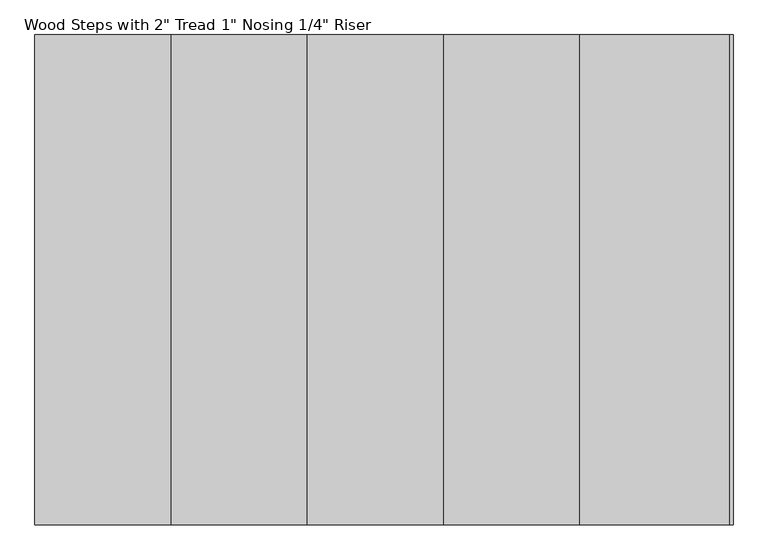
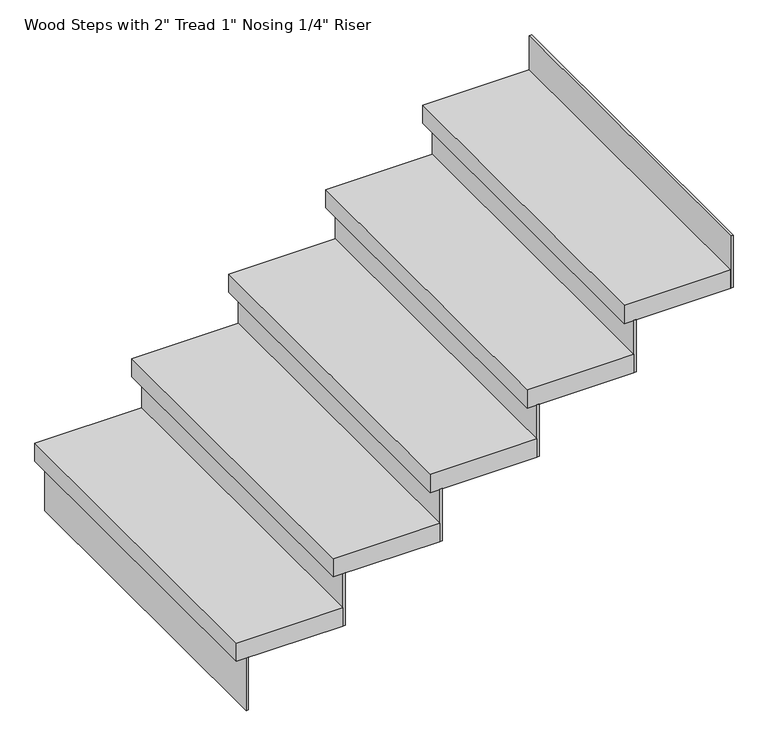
"""IFC4 building model written with IfcOpenShell, lengths in millimetres: stair flight geometry."""

import ifcopenshell
import ifcopenshell.guid

model = None  # the IFC model being written
_history = None  # IfcOwnerHistory: only IFC2X3 demands one
_inside = {}  # id of a spatial element -> (the spatial element, [elements in it])
_under = {}  # id of a project, library or spatial element -> (it, [spatial elements below it])
_declared = {}  # id of a project -> (the project, [libraries it declares])
_typed = {}  # id of a type object -> (the type object, [elements of that type])
_made_of = {}  # id of a material, layer set ... -> (it, [elements and type objects made of it])


def new_model(schema):
    """Start an empty IFC model of exactly this schema.

    Asked for "IFC4X3", IfcOpenShell would pick the latest addendum, in which some entities
    have other attributes; the version numbers below select the first issue.
    IFC2X3 requires an IfcOwnerHistory on every rooted entity: one is made here for all.
    """
    global model, _history
    if schema == "IFC4X3":
        model = ifcopenshell.file(schema_version=(4, 3, 0, 0))
    else:
        model = ifcopenshell.file(schema=schema)
    _inside.clear()
    _under.clear()
    _declared.clear()
    _typed.clear()
    _made_of.clear()
    _history = None
    if model.schema == "IFC2X3":
        org = make("IfcOrganization", Name="unknown")
        user = make(
            "IfcPersonAndOrganization",
            ThePerson=make("IfcPerson", FamilyName="unknown"),
            TheOrganization=org,
        )
        app = make(
            "IfcApplication",
            ApplicationDeveloper=org,
            Version="unknown",
            ApplicationFullName="unknown",
            ApplicationIdentifier="unknown",
        )
        _history = make(
            "IfcOwnerHistory",
            OwningUser=user,
            OwningApplication=app,
            ChangeAction="ADDED",
            CreationDate=0,
        )
    return model


def make(cls, **values):
    """One entity of the class cls with the attributes given. An attribute that is None is left unset."""
    return model.create_entity(
        cls, **{name: value for name, value in values.items() if value is not None}
    )


def rooted(cls, **values):
    """An entity with a GlobalId (a new one), such as an element, a storey or a relation."""
    return make(cls, GlobalId=ifcopenshell.guid.new(), OwnerHistory=_history, **values)


def si_unit(unit_type, name, prefix=None):
    """IfcSIUnit, for example si_unit("LENGTHUNIT", "METRE", prefix="MILLI")."""
    return make("IfcSIUnit", UnitType=unit_type, Prefix=prefix, Name=name)


def assignment(units):
    """IfcUnitAssignment: the units of a project."""
    return None if units is None else make("IfcUnitAssignment", Units=units)


def point(xyz):
    """IfcCartesianPoint."""
    return None if xyz is None else make("IfcCartesianPoint", Coordinates=xyz)


def direction(xyz):
    """IfcDirection."""
    return None if xyz is None else make("IfcDirection", DirectionRatios=xyz)


def frame(location, z_axis=None, x_axis=None):
    """IfcAxis2Placement3D, a coordinate frame: its origin and axes. An axis left out is left unset."""
    return make(
        "IfcAxis2Placement3D",
        Location=point(location),
        Axis=direction(z_axis),
        RefDirection=direction(x_axis),
    )


def origin():
    """The frame at (0, 0, 0) with its axes left unset."""
    return frame((0.0, 0.0, 0.0))


def place(relative_to, where):
    """IfcLocalPlacement: puts the frame where relative to a parent placement (None: the world)."""
    return make(
        "IfcLocalPlacement", PlacementRelTo=relative_to, RelativePlacement=where
    )


def context(
    kind, dimensions, precision=None, world=None, true_north=None, identifier=None
):
    """IfcGeometricRepresentationContext, for example the 3D "Model" context."""
    return make(
        "IfcGeometricRepresentationContext",
        ContextIdentifier=identifier,
        ContextType=kind,
        CoordinateSpaceDimension=dimensions,
        Precision=precision,
        WorldCoordinateSystem=world,
        TrueNorth=true_north,
    )


def project(units=None, contexts=None):
    """IfcProject with its units and contexts."""
    return rooted(
        "IfcProject",
        Name="project",
        RepresentationContexts=contexts,
        UnitsInContext=assignment(units),
    )


def spatial(cls, under=None, at=None, **own):
    """A site, building, storey or space (cls), placed at a placement, below another one or the project."""
    s = rooted(cls, ObjectPlacement=at, **own)
    if under is not None:
        _under.setdefault(under.id(), (under, []))[1].append(s)
    return s


def polyline(points):
    """IfcPolyline through the points."""
    return make("IfcPolyline", Points=[point(p) for p in points])


def outline(outer, holes=None, kind="AREA"):
    """IfcArbitraryClosedProfileDef: a profile drawn as a closed curve; with holes, ...WithVoids."""
    if holes is None:
        return make("IfcArbitraryClosedProfileDef", ProfileType=kind, OuterCurve=outer)
    return make(
        "IfcArbitraryProfileDefWithVoids",
        ProfileType=kind,
        OuterCurve=outer,
        InnerCurves=holes,
    )


def extrude(swept, where, along, depth):
    """IfcExtrudedAreaSolid: the profile swept, set in the frame where, extruded along a direction by depth."""
    return make(
        "IfcExtrudedAreaSolid",
        SweptArea=swept,
        Position=where,
        ExtrudedDirection=direction(along),
        Depth=depth,
    )


def shape(context_of_items, identifier, shape_type, items):
    """IfcShapeRepresentation: the items that make up one representation, for example the "Body"."""
    return make(
        "IfcShapeRepresentation",
        ContextOfItems=context_of_items,
        RepresentationIdentifier=identifier,
        RepresentationType=shape_type,
        Items=items,
    )


def source(mapping_origin, context_of_items, identifier, shape_type, items):
    """IfcRepresentationMap: a shape defined once, which mapped items show again and again."""
    return make(
        "IfcRepresentationMap",
        MappingOrigin=mapping_origin,
        MappedRepresentation=shape(context_of_items, identifier, shape_type, items),
    )


def transform(
    local_origin,
    x_axis=None,
    y_axis=None,
    z_axis=None,
    scale=None,
    scale2=None,
    scale3=None,
    uniform=True,
):
    """IfcCartesianTransformationOperator3D, or its non-uniform kind. x_axis, y_axis, z_axis: its Axis1, 2, 3."""
    if uniform:
        return make(
            "IfcCartesianTransformationOperator3D",
            Axis1=direction(x_axis),
            Axis2=direction(y_axis),
            LocalOrigin=point(local_origin),
            Scale=scale,
            Axis3=direction(z_axis),
        )
    return make(
        "IfcCartesianTransformationOperator3DnonUniform",
        Axis1=direction(x_axis),
        Axis2=direction(y_axis),
        LocalOrigin=point(local_origin),
        Scale=scale,
        Axis3=direction(z_axis),
        Scale2=scale2,
        Scale3=scale3,
    )


def mapped(mapping_source, mapping_target):
    """IfcMappedItem: shows the shape of a source again, moved by a transform."""
    return make(
        "IfcMappedItem", MappingSource=mapping_source, MappingTarget=mapping_target
    )


def made_of(thing, what):
    """Note that an element or type object is made of a material, layer set ...; save() writes the relation."""
    if what is not None:
        _made_of.setdefault(what.id(), (what, []))[1].append(thing)
    return thing


def element(
    cls,
    number,
    at=None,
    inside=None,
    cuts=None,
    type_object=None,
    material=None,
    context=None,
    identifier="Body",
    shape_type=None,
    held_by="IfcProductDefinitionShape",
    body=None,
    shapes=None,
    **own,
):
    """One element of the class cls, such as IfcWall. Its Tag is "e" and its number.

    at: its placement. inside: the storey or other place that contains it. cuts: it is an
    opening in that element (IfcRelVoidsElement). A single representation is given by context,
    identifier, shape_type and body (its items); several are given by shapes. held_by: the class
    of the entity that holds the representations. save() writes the other relations.
    """
    e = rooted(cls, Tag="e%d" % number, ObjectPlacement=at, **own)
    if body is not None:
        shapes = [shape(context, identifier, shape_type, body)]
    if shapes is not None:
        e.Representation = make(held_by, Representations=shapes)
    if inside is not None:
        _inside.setdefault(inside.id(), (inside, []))[1].append(e)
    if cuts is not None:
        rooted(
            "IfcRelVoidsElement", RelatingBuildingElement=cuts, RelatedOpeningElement=e
        )
    if type_object is not None:
        _typed.setdefault(type_object.id(), (type_object, []))[1].append(e)
    return made_of(e, material)


def aggregate(whole, parts):
    """IfcRelAggregates: a whole, such as a stair, and the parts it consists of."""
    return rooted("IfcRelAggregates", RelatingObject=whole, RelatedObjects=parts)


def save(model, path):
    """Write the relations noted so far, then the file.

    IfcRelAggregates (storeys below a building ...), IfcRelContainedInSpatialStructure (elements
    in a storey), IfcRelDefinesByType, IfcRelAssociatesMaterial and IfcRelDeclares: one each for
    every whole, place, type object, material and project.
    """
    for whole, parts in _under.values():
        aggregate(whole, parts)
    for where, things in _inside.values():
        rooted(
            "IfcRelContainedInSpatialStructure",
            RelatedElements=things,
            RelatingStructure=where,
        )
    for kind, things in _typed.values():
        rooted("IfcRelDefinesByType", RelatedObjects=things, RelatingType=kind)
    for what, things in _made_of.values():
        rooted("IfcRelAssociatesMaterial", RelatedObjects=things, RelatingMaterial=what)
    for by, libraries in _declared.values():
        rooted("IfcRelDeclares", RelatingContext=by, RelatedDefinitions=libraries)
    model.write(path)


def stair_flight_4ada8186(model_context):
    return source(origin(), model_context, "Body", "SweptSolid", [
        extrude(outline(polyline([(-19072.492616, 23363.0076385), (-19078.842616, 23363.0076385), (-19078.842616, 24277.4076385), (-19072.492616, 24277.4076385), (-19072.492616, 23363.0076385)])), frame((0.0, 0.0, 2126.3428571), z_axis=(0.0, 0.0, 1.0), x_axis=(1.0, 0.0, 0.0)), (0.0, 0.0, 1.0), 145.1428571),
        extrude(outline(polyline([(-18824.842616, 24277.4076385), (-18824.842616, 23363.0076385), (-19104.242616, 23363.0076385), (-19104.242616, 24277.4076385), (-18824.842616, 24277.4076385)])), frame((0.0, 0.0, 2271.4857143), z_axis=(0.0, 0.0, 1.0), x_axis=(1.0, 0.0, 0.0)), (0.0, 0.0, 1.0), 50.8),
        extrude(outline(polyline([(-18818.492616, 23363.0076385), (-18824.842616, 23363.0076385), (-18824.842616, 24277.4076385), (-18818.492616, 24277.4076385), (-18818.492616, 23363.0076385)])), frame((0.0, 0.0, 2271.4857143), z_axis=(0.0, 0.0, 1.0), x_axis=(1.0, 0.0, 0.0)), (0.0, 0.0, 1.0), 145.1428571),
        extrude(outline(polyline([(-18570.842616, 24277.4076385), (-18570.842616, 23363.0076385), (-18850.242616, 23363.0076385), (-18850.242616, 24277.4076385), (-18570.842616, 24277.4076385)])), frame((0.0, 0.0, 2416.6285714), z_axis=(0.0, 0.0, 1.0), x_axis=(1.0, 0.0, 0.0)), (0.0, 0.0, 1.0), 50.8),
        extrude(outline(polyline([(-18564.492616, 23363.0076385), (-18570.842616, 23363.0076385), (-18570.842616, 24277.4076385), (-18564.492616, 24277.4076385), (-18564.492616, 23363.0076385)])), frame((0.0, 0.0, 2416.6285714), z_axis=(0.0, 0.0, 1.0), x_axis=(1.0, 0.0, 0.0)), (0.0, 0.0, 1.0), 145.1428571),
        extrude(outline(polyline([(-18316.842616, 24277.4076385), (-18316.842616, 23363.0076385), (-18596.242616, 23363.0076385), (-18596.242616, 24277.4076385), (-18316.842616, 24277.4076385)])), frame((0.0, 0.0, 2561.7714286), z_axis=(0.0, 0.0, 1.0), x_axis=(1.0, 0.0, 0.0)), (0.0, 0.0, 1.0), 50.8),
        extrude(outline(polyline([(-18310.492616, 23363.0076385), (-18316.842616, 23363.0076385), (-18316.842616, 24277.4076385), (-18310.492616, 24277.4076385), (-18310.492616, 23363.0076385)])), frame((0.0, 0.0, 2561.7714286), z_axis=(0.0, 0.0, 1.0), x_axis=(1.0, 0.0, 0.0)), (0.0, 0.0, 1.0), 145.1428571),
        extrude(outline(polyline([(-18062.842616, 24277.4076385), (-18062.842616, 23363.0076385), (-18342.242616, 23363.0076385), (-18342.242616, 24277.4076385), (-18062.842616, 24277.4076385)])), frame((0.0, 0.0, 2706.9142857), z_axis=(0.0, 0.0, 1.0), x_axis=(1.0, 0.0, 0.0)), (0.0, 0.0, 1.0), 50.8),
        extrude(outline(polyline([(-18056.492616, 23363.0076385), (-18062.842616, 23363.0076385), (-18062.842616, 24277.4076385), (-18056.492616, 24277.4076385), (-18056.492616, 23363.0076385)])), frame((0.0, 0.0, 2706.9142857), z_axis=(0.0, 0.0, 1.0), x_axis=(1.0, 0.0, 0.0)), (0.0, 0.0, 1.0), 145.1428571),
        extrude(outline(polyline([(-17802.492616, 23363.0076385), (-17808.842616, 23363.0076385), (-17808.842616, 24277.4076385), (-17802.492616, 24277.4076385), (-17802.492616, 23363.0076385)])), frame((0.0, 0.0, 2852.0571429), z_axis=(0.0, 0.0, 1.0), x_axis=(1.0, 0.0, 0.0)), (0.0, 0.0, 1.0), 145.1428571),
        extrude(outline(polyline([(-17808.842616, 24277.4076385), (-17808.842616, 23363.0076385), (-18088.242616, 23363.0076385), (-18088.242616, 24277.4076385), (-17808.842616, 24277.4076385)])), frame((0.0, 0.0, 2852.0571429), z_axis=(0.0, 0.0, 1.0), x_axis=(1.0, 0.0, 0.0)), (0.0, 0.0, 1.0), 50.8),
    ])


if __name__ == "__main__":
    model = new_model("IFC4")
    model_context = context("Model", 3, world=origin())
    ifc_project = project(units=[si_unit("LENGTHUNIT", "METRE", prefix="MILLI")], contexts=[model_context])
    site = spatial("IfcSite", under=ifc_project)
    building = spatial("IfcBuilding", under=site)
    placement = place(None, origin())
    stair_flight_shape = stair_flight_4ada8186(model_context)
    element("IfcStairFlight", 1, ObjectType="Wood Steps with 2\" Tread 1\" Nosing 1/4\" Riser", at=placement, inside=building, context=model_context, shape_type="MappedRepresentation", body=[
        mapped(stair_flight_shape, transform((0.0, 0.0, 0.0), x_axis=(1.0, 0.0, 0.0), y_axis=(0.0, 1.0, 0.0), z_axis=(0.0, 0.0, 1.0))),
    ])
    save(model, "model.ifc")
